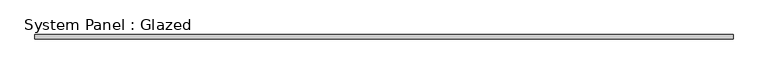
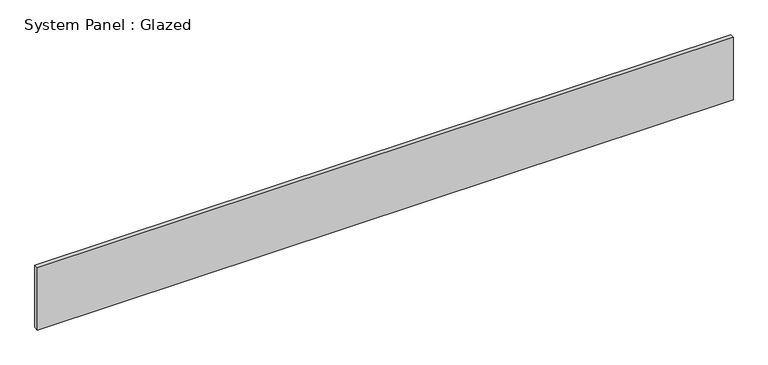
"""IFC4 building model written with IfcOpenShell, lengths in millimetres: plate geometry, System Panel : Glazed."""

import ifcopenshell
import ifcopenshell.guid

model = None  # the IFC model being written
_history = None  # IfcOwnerHistory: only IFC2X3 demands one
_inside = {}  # id of a spatial element -> (the spatial element, [elements in it])
_under = {}  # id of a project, library or spatial element -> (it, [spatial elements below it])
_declared = {}  # id of a project -> (the project, [libraries it declares])
_typed = {}  # id of a type object -> (the type object, [elements of that type])
_made_of = {}  # id of a material, layer set ... -> (it, [elements and type objects made of it])


def new_model(schema):
    """Start an empty IFC model of exactly this schema.

    Asked for "IFC4X3", IfcOpenShell would pick the latest addendum, in which some entities
    have other attributes; the version numbers below select the first issue.
    IFC2X3 requires an IfcOwnerHistory on every rooted entity: one is made here for all.
    """
    global model, _history
    if schema == "IFC4X3":
        model = ifcopenshell.file(schema_version=(4, 3, 0, 0))
    else:
        model = ifcopenshell.file(schema=schema)
    _inside.clear()
    _under.clear()
    _declared.clear()
    _typed.clear()
    _made_of.clear()
    _history = None
    if model.schema == "IFC2X3":
        org = make("IfcOrganization", Name="unknown")
        user = make(
            "IfcPersonAndOrganization",
            ThePerson=make("IfcPerson", FamilyName="unknown"),
            TheOrganization=org,
        )
        app = make(
            "IfcApplication",
            ApplicationDeveloper=org,
            Version="unknown",
            ApplicationFullName="unknown",
            ApplicationIdentifier="unknown",
        )
        _history = make(
            "IfcOwnerHistory",
            OwningUser=user,
            OwningApplication=app,
            ChangeAction="ADDED",
            CreationDate=0,
        )
    return model


def make(cls, **values):
    """One entity of the class cls with the attributes given. An attribute that is None is left unset."""
    return model.create_entity(
        cls, **{name: value for name, value in values.items() if value is not None}
    )


def rooted(cls, **values):
    """An entity with a GlobalId (a new one), such as an element, a storey or a relation."""
    return make(cls, GlobalId=ifcopenshell.guid.new(), OwnerHistory=_history, **values)


def si_unit(unit_type, name, prefix=None):
    """IfcSIUnit, for example si_unit("LENGTHUNIT", "METRE", prefix="MILLI")."""
    return make("IfcSIUnit", UnitType=unit_type, Prefix=prefix, Name=name)


def assignment(units):
    """IfcUnitAssignment: the units of a project."""
    return None if units is None else make("IfcUnitAssignment", Units=units)


def point(xyz):
    """IfcCartesianPoint."""
    return None if xyz is None else make("IfcCartesianPoint", Coordinates=xyz)


def direction(xyz):
    """IfcDirection."""
    return None if xyz is None else make("IfcDirection", DirectionRatios=xyz)


def frame(location, z_axis=None, x_axis=None):
    """IfcAxis2Placement3D, a coordinate frame: its origin and axes. An axis left out is left unset."""
    return make(
        "IfcAxis2Placement3D",
        Location=point(location),
        Axis=direction(z_axis),
        RefDirection=direction(x_axis),
    )


def origin():
    """The frame at (0, 0, 0) with its axes left unset."""
    return frame((0.0, 0.0, 0.0))


def origin_with_axes():
    """The frame at (0, 0, 0) with the z axis (0, 0, 1) and the x axis (1, 0, 0) written out."""
    return frame((0.0, 0.0, 0.0), z_axis=(0.0, 0.0, 1.0), x_axis=(1.0, 0.0, 0.0))


def place(relative_to, where):
    """IfcLocalPlacement: puts the frame where relative to a parent placement (None: the world)."""
    return make(
        "IfcLocalPlacement", PlacementRelTo=relative_to, RelativePlacement=where
    )


def context(
    kind, dimensions, precision=None, world=None, true_north=None, identifier=None
):
    """IfcGeometricRepresentationContext, for example the 3D "Model" context."""
    return make(
        "IfcGeometricRepresentationContext",
        ContextIdentifier=identifier,
        ContextType=kind,
        CoordinateSpaceDimension=dimensions,
        Precision=precision,
        WorldCoordinateSystem=world,
        TrueNorth=true_north,
    )


def project(units=None, contexts=None):
    """IfcProject with its units and contexts."""
    return rooted(
        "IfcProject",
        Name="project",
        RepresentationContexts=contexts,
        UnitsInContext=assignment(units),
    )


def spatial(cls, under=None, at=None, **own):
    """A site, building, storey or space (cls), placed at a placement, below another one or the project."""
    s = rooted(cls, ObjectPlacement=at, **own)
    if under is not None:
        _under.setdefault(under.id(), (under, []))[1].append(s)
    return s


def polyline(points):
    """IfcPolyline through the points."""
    return make("IfcPolyline", Points=[point(p) for p in points])


def outline(outer, holes=None, kind="AREA"):
    """IfcArbitraryClosedProfileDef: a profile drawn as a closed curve; with holes, ...WithVoids."""
    if holes is None:
        return make("IfcArbitraryClosedProfileDef", ProfileType=kind, OuterCurve=outer)
    return make(
        "IfcArbitraryProfileDefWithVoids",
        ProfileType=kind,
        OuterCurve=outer,
        InnerCurves=holes,
    )


def extrude(swept, where, along, depth):
    """IfcExtrudedAreaSolid: the profile swept, set in the frame where, extruded along a direction by depth."""
    return make(
        "IfcExtrudedAreaSolid",
        SweptArea=swept,
        Position=where,
        ExtrudedDirection=direction(along),
        Depth=depth,
    )


def shape(context_of_items, identifier, shape_type, items):
    """IfcShapeRepresentation: the items that make up one representation, for example the "Body"."""
    return make(
        "IfcShapeRepresentation",
        ContextOfItems=context_of_items,
        RepresentationIdentifier=identifier,
        RepresentationType=shape_type,
        Items=items,
    )


def source(mapping_origin, context_of_items, identifier, shape_type, items):
    """IfcRepresentationMap: a shape defined once, which mapped items show again and again."""
    return make(
        "IfcRepresentationMap",
        MappingOrigin=mapping_origin,
        MappedRepresentation=shape(context_of_items, identifier, shape_type, items),
    )


def transform(
    local_origin,
    x_axis=None,
    y_axis=None,
    z_axis=None,
    scale=None,
    scale2=None,
    scale3=None,
    uniform=True,
):
    """IfcCartesianTransformationOperator3D, or its non-uniform kind. x_axis, y_axis, z_axis: its Axis1, 2, 3."""
    if uniform:
        return make(
            "IfcCartesianTransformationOperator3D",
            Axis1=direction(x_axis),
            Axis2=direction(y_axis),
            LocalOrigin=point(local_origin),
            Scale=scale,
            Axis3=direction(z_axis),
        )
    return make(
        "IfcCartesianTransformationOperator3DnonUniform",
        Axis1=direction(x_axis),
        Axis2=direction(y_axis),
        LocalOrigin=point(local_origin),
        Scale=scale,
        Axis3=direction(z_axis),
        Scale2=scale2,
        Scale3=scale3,
    )


def mapped(mapping_source, mapping_target):
    """IfcMappedItem: shows the shape of a source again, moved by a transform."""
    return make(
        "IfcMappedItem", MappingSource=mapping_source, MappingTarget=mapping_target
    )


def made_of(thing, what):
    """Note that an element or type object is made of a material, layer set ...; save() writes the relation."""
    if what is not None:
        _made_of.setdefault(what.id(), (what, []))[1].append(thing)
    return thing


def element(
    cls,
    number,
    at=None,
    inside=None,
    cuts=None,
    type_object=None,
    material=None,
    context=None,
    identifier="Body",
    shape_type=None,
    held_by="IfcProductDefinitionShape",
    body=None,
    shapes=None,
    **own,
):
    """One element of the class cls, such as IfcWall. Its Tag is "e" and its number.

    at: its placement. inside: the storey or other place that contains it. cuts: it is an
    opening in that element (IfcRelVoidsElement). A single representation is given by context,
    identifier, shape_type and body (its items); several are given by shapes. held_by: the class
    of the entity that holds the representations. save() writes the other relations.
    """
    e = rooted(cls, Tag="e%d" % number, ObjectPlacement=at, **own)
    if body is not None:
        shapes = [shape(context, identifier, shape_type, body)]
    if shapes is not None:
        e.Representation = make(held_by, Representations=shapes)
    if inside is not None:
        _inside.setdefault(inside.id(), (inside, []))[1].append(e)
    if cuts is not None:
        rooted(
            "IfcRelVoidsElement", RelatingBuildingElement=cuts, RelatedOpeningElement=e
        )
    if type_object is not None:
        _typed.setdefault(type_object.id(), (type_object, []))[1].append(e)
    return made_of(e, material)


def aggregate(whole, parts):
    """IfcRelAggregates: a whole, such as a stair, and the parts it consists of."""
    return rooted("IfcRelAggregates", RelatingObject=whole, RelatedObjects=parts)


def save(model, path):
    """Write the relations noted so far, then the file.

    IfcRelAggregates (storeys below a building ...), IfcRelContainedInSpatialStructure (elements
    in a storey), IfcRelDefinesByType, IfcRelAssociatesMaterial and IfcRelDeclares: one each for
    every whole, place, type object, material and project.
    """
    for whole, parts in _under.values():
        aggregate(whole, parts)
    for where, things in _inside.values():
        rooted(
            "IfcRelContainedInSpatialStructure",
            RelatedElements=things,
            RelatingStructure=where,
        )
    for kind, things in _typed.values():
        rooted("IfcRelDefinesByType", RelatedObjects=things, RelatingType=kind)
    for what, things in _made_of.values():
        rooted("IfcRelAssociatesMaterial", RelatedObjects=things, RelatingMaterial=what)
    for by, libraries in _declared.values():
        rooted("IfcRelDeclares", RelatingContext=by, RelatedDefinitions=libraries)
    model.write(path)


def system_panel_glazed_e982af32(model_context):
    return source(origin(), model_context, "Body", "SweptSolid", [
        extrude(outline(polyline([(1975.0, -49.5), (-1975.0, -49.5), (-1975.0, -24.5), (1975.0, -24.5), (1975.0, -49.5)])), origin_with_axes(), (0.0, 0.0, 1.0), 373.4924443),
    ])


if __name__ == "__main__":
    model = new_model("IFC4")
    model_context = context("Model", 3, world=origin())
    ifc_project = project(units=[si_unit("LENGTHUNIT", "METRE", prefix="MILLI")], contexts=[model_context])
    site = spatial("IfcSite", under=ifc_project)
    building = spatial("IfcBuilding", under=site)
    placement = place(None, origin())
    system_panel_glazed_shape = system_panel_glazed_e982af32(model_context)
    element("IfcPlate", 1, ObjectType="System Panel : Glazed", at=placement, inside=building, context=model_context, shape_type="MappedRepresentation", body=[
        mapped(system_panel_glazed_shape, transform((0.0, 0.0, 0.0), x_axis=(1.0, 0.0, 0.0), y_axis=(0.0, 1.0, 0.0), z_axis=(0.0, 0.0, 1.0))),
    ])
    save(model, "model.ifc")
